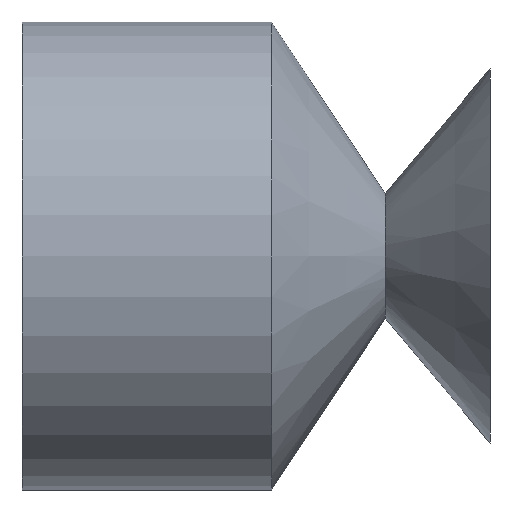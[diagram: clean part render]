
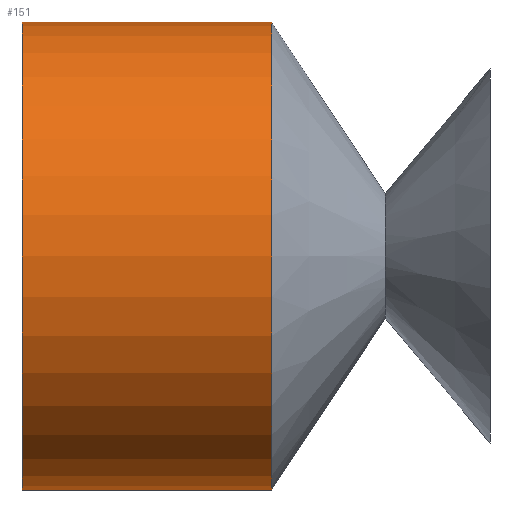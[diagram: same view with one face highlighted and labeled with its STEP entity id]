
A CAD part, left-side view. The second image highlights one B-rep face of the part: STEP entity #151.
In plain terms, the highlighted cylindrical face has radius 7.5 mm (diameter 15 mm), a partial arc.
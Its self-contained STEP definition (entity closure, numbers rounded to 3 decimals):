
#6 = ORIENTED_EDGE ( 'NONE', *, *, #264, .T. ) ;
#9 = DIRECTION ( 'NONE',  ( 0., -1., 0. ) ) ;
#34 = AXIS2_PLACEMENT_3D ( 'NONE', #489, #195, #240 ) ;
#35 = CARTESIAN_POINT ( 'NONE',  ( 0., 15., -7.5 ) ) ;
#38 = VECTOR ( 'NONE', #476, 1000. ) ;
#39 = AXIS2_PLACEMENT_3D ( 'NONE', #178, #9, #138 ) ;
#44 = LINE ( 'NONE', #439, #135 ) ;
#59 = VERTEX_POINT ( 'NONE', #321 ) ;
#92 = ORIENTED_EDGE ( 'NONE', *, *, #274, .F. ) ;
#100 = CARTESIAN_POINT ( 'NONE',  ( 0., 0., -7.5 ) ) ;
#119 = CARTESIAN_POINT ( 'NONE',  ( 0., 15., 7.5 ) ) ;
#135 = VECTOR ( 'NONE', #441, 1000. ) ;
#138 = DIRECTION ( 'NONE',  ( 0., 0., -1. ) ) ;
#143 = EDGE_LOOP ( 'NONE', ( #253, #366, #6, #92 ) ) ;
#151 = ADVANCED_FACE ( 'NONE', ( #238 ), #474, .T. ) ;
#169 = AXIS2_PLACEMENT_3D ( 'NONE', #256, #317, #523 ) ;
#178 = CARTESIAN_POINT ( 'NONE',  ( 0., 0., 0. ) ) ;
#195 = DIRECTION ( 'NONE',  ( 0., -1., 0. ) ) ;
#217 = CIRCLE ( 'NONE', #169, 7.5 ) ;
#232 = CARTESIAN_POINT ( 'NONE',  ( 0., 7., -7.5 ) ) ;
#238 = FACE_OUTER_BOUND ( 'NONE', #143, .T. ) ;
#240 = DIRECTION ( 'NONE',  ( 0., 0., -1. ) ) ;
#248 = VERTEX_POINT ( 'NONE', #119 ) ;
#251 = CIRCLE ( 'NONE', #34, 7.5 ) ;
#253 = ORIENTED_EDGE ( 'NONE', *, *, #470, .F. ) ;
#256 = CARTESIAN_POINT ( 'NONE',  ( 0., 15., 0. ) ) ;
#264 = EDGE_CURVE ( 'NONE', #356, #287, #445, .T. ) ;
#274 = EDGE_CURVE ( 'NONE', #59, #287, #251, .T. ) ;
#287 = VERTEX_POINT ( 'NONE', #232 ) ;
#317 = DIRECTION ( 'NONE',  ( 0., -1., 0. ) ) ;
#321 = CARTESIAN_POINT ( 'NONE',  ( 0., 7., 7.5 ) ) ;
#356 = VERTEX_POINT ( 'NONE', #35 ) ;
#366 = ORIENTED_EDGE ( 'NONE', *, *, #389, .T. ) ;
#389 = EDGE_CURVE ( 'NONE', #248, #356, #217, .T. ) ;
#439 = CARTESIAN_POINT ( 'NONE',  ( 0., 0., 7.5 ) ) ;
#441 = DIRECTION ( 'NONE',  ( 0., -1., 0. ) ) ;
#445 = LINE ( 'NONE', #100, #38 ) ;
#470 = EDGE_CURVE ( 'NONE', #248, #59, #44, .T. ) ;
#474 = CYLINDRICAL_SURFACE ( 'NONE', #39, 7.5 ) ;
#476 = DIRECTION ( 'NONE',  ( 0., -1., 0. ) ) ;
#489 = CARTESIAN_POINT ( 'NONE',  ( 0., 7., 0. ) ) ;
#523 = DIRECTION ( 'NONE',  ( 0., 0., -1. ) ) ;
